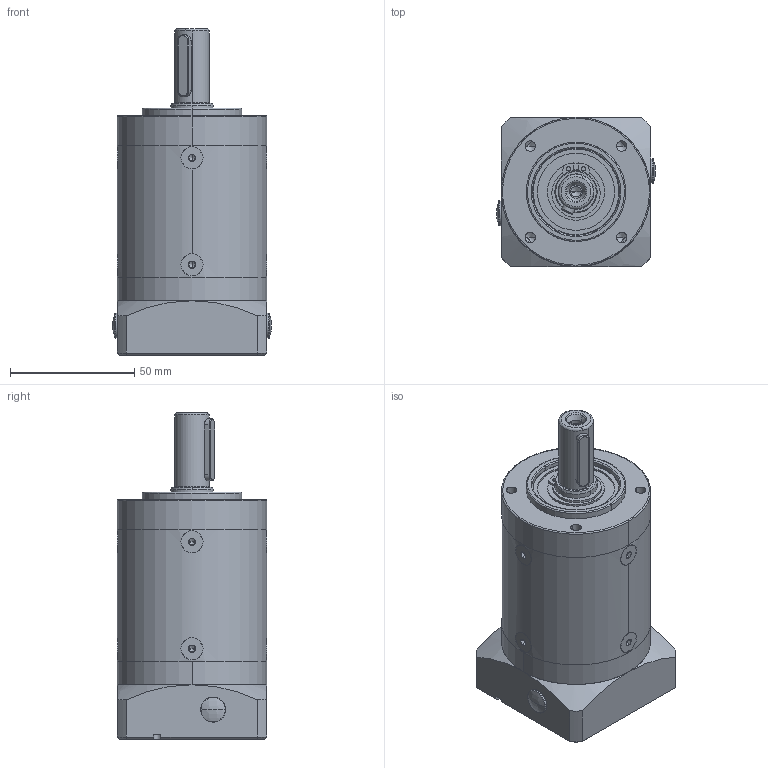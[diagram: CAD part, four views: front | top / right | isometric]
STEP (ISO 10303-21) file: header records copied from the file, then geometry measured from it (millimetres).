
FILE_DESCRIPTION (( 'STEP AP214' ), '1' );
FILE_NAME ('GSLL-060-0_ _-N023_-XX Two Stage.STEP', '2025-08-26T14:52:18', ( '' ), ( '' ), 'SwSTEP 2.0', 'SolidWorks 2020', '' );
FILE_SCHEMA (( 'AUTOMOTIVE_DESIGN' ));
Length unit declared in the file: millimetre
Products named in the file (1): GSLL-060-0_ _-N023_-XX Two Stage
Bounding box: 63.92 x 60 x 131.5 mm (x, y, z)
Volume: 174257.1 mm3; surface area: 85581.9 mm2
Topology: 35 solids, 35 shells, 1142 faces, 2935 edges, 1819 vertices
Faces by surface type: cylinder 339, plane 309, bspline 302, cone 192
Entity records: 50816 total; most frequent: CARTESIAN_POINT 21335, ORIENTED_EDGE 5706, DIRECTION 5003, EDGE_CURVE 2853, AXIS2_PLACEMENT_3D 2089, VERTEX_POINT 1819, EDGE_LOOP 1310, CIRCLE 1248
